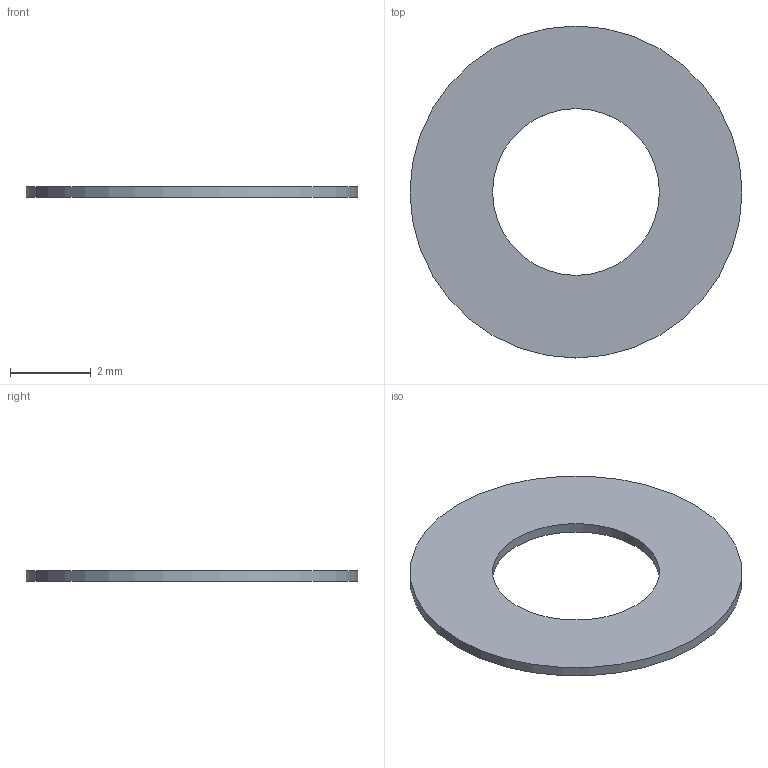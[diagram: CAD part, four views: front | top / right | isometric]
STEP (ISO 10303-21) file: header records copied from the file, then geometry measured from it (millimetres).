
FILE_DESCRIPTION(('Open CASCADE Model'),'2;1');
FILE_NAME('Open CASCADE Shape Model','2026-09-24T19:52:59',('Author'),( 'Open CASCADE'),'Open CASCADE STEP processor 7.8','Open CASCADE 7.8' ,'Unknown');
FILE_SCHEMA(('AUTOMOTIVE_DESIGN { 1 0 10303 214 1 1 1 1 }'));
Length unit declared in the file: millimetre
Products named in the file (1): Open CASCADE STEP translator 7.8 63
Bounding box: 8.2 x 8.2 x 0.25 mm (x, y, z)
Volume: 9.9 mm3; surface area: 88.6 mm2
Topology: 1 solids, 1 shells, 4 faces, 6 edges, 4 vertices
Faces by surface type: cylinder 2, plane 2
Full cylindrical faces by diameter (mm): 4.12 x1, 8.2 x1
Entity records: 186 total; most frequent: DIRECTION 32, CARTESIAN_POINT 27, ORIENTED_EDGE 12, PCURVE 12, DEFINITIONAL_REPRESENTATION 12, LINE 10, VECTOR 10, AXIS2_PLACEMENT_3D 9
